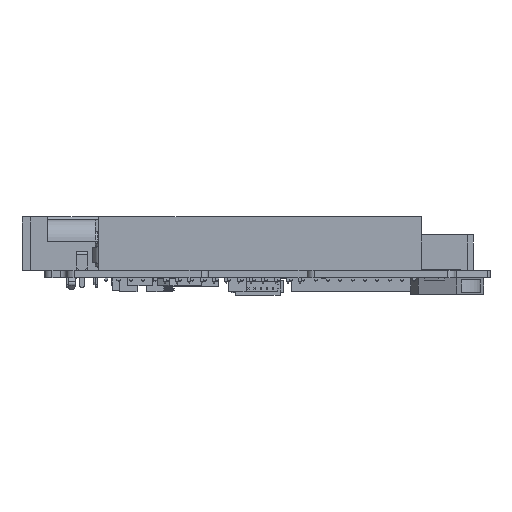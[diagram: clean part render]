
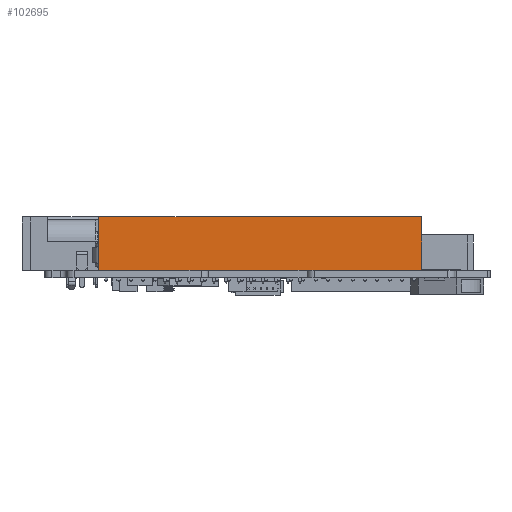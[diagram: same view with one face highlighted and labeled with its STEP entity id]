
A CAD part, front view. The second image highlights one B-rep face of the part: STEP entity #102695.
In plain terms, the highlighted planar face has unit normal (0, -1, 0).
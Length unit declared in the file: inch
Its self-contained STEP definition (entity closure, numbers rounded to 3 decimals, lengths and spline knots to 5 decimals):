
#9516 = LINE ( 'NONE', #199775, #86948 ) ;
#10596 = CARTESIAN_POINT ( 'NONE',  ( 1.285, -1.7375, 0.435 ) ) ;
#14395 = DIRECTION ( 'NONE',  ( 0., 0., -1. ) ) ;
#22047 = DIRECTION ( 'NONE',  ( 1., 0., 0. ) ) ;
#30537 = VERTEX_POINT ( 'NONE', #146962 ) ;
#37738 = EDGE_CURVE ( 'NONE', #30537, #114789, #9516, .T. ) ;
#42252 = CARTESIAN_POINT ( 'NONE',  ( -1.335, -1.7375, 0.435 ) ) ;
#52468 = CARTESIAN_POINT ( 'NONE',  ( 1.285, -1.7375, 0. ) ) ;
#57190 = PLANE ( 'NONE',  #193115 ) ;
#62843 = CARTESIAN_POINT ( 'NONE',  ( 1.285, -1.7375, 0. ) ) ;
#64575 = EDGE_CURVE ( 'NONE', #183279, #30537, #86502, .T. ) ;
#64854 = EDGE_CURVE ( 'NONE', #183279, #111804, #105718, .T. ) ;
#70705 = EDGE_LOOP ( 'NONE', ( #162779, #193974, #79548, #77676 ) ) ;
#72798 = DIRECTION ( 'NONE',  ( -1., 0., 0. ) ) ;
#77676 = ORIENTED_EDGE ( 'NONE', *, *, #64854, .T. ) ;
#78693 = LINE ( 'NONE', #52468, #197277 ) ;
#79548 = ORIENTED_EDGE ( 'NONE', *, *, #64575, .F. ) ;
#86502 = LINE ( 'NONE', #183790, #200241 ) ;
#86948 = VECTOR ( 'NONE', #14395, 39.37008 ) ;
#102695 = ADVANCED_FACE ( 'NONE', ( #113442 ), #57190, .F. ) ;
#105718 = LINE ( 'NONE', #142429, #188053 ) ;
#111804 = VERTEX_POINT ( 'NONE', #167106 ) ;
#113442 = FACE_OUTER_BOUND ( 'NONE', #70705, .T. ) ;
#114789 = VERTEX_POINT ( 'NONE', #62843 ) ;
#142429 = CARTESIAN_POINT ( 'NONE',  ( -1.335, -1.7375, 0.435 ) ) ;
#146962 = CARTESIAN_POINT ( 'NONE',  ( 1.285, -1.7375, 0.435 ) ) ;
#162779 = ORIENTED_EDGE ( 'NONE', *, *, #193883, .T. ) ;
#165529 = DIRECTION ( 'NONE',  ( 0., 1., 0. ) ) ;
#167106 = CARTESIAN_POINT ( 'NONE',  ( -1.335, -1.7375, 0. ) ) ;
#168154 = DIRECTION ( 'NONE',  ( 1., 0., 0. ) ) ;
#183279 = VERTEX_POINT ( 'NONE', #42252 ) ;
#183790 = CARTESIAN_POINT ( 'NONE',  ( 1.285, -1.7375, 0.435 ) ) ;
#188053 = VECTOR ( 'NONE', #188411, 39.37008 ) ;
#188411 = DIRECTION ( 'NONE',  ( 0., 0., -1. ) ) ;
#193115 = AXIS2_PLACEMENT_3D ( 'NONE', #10596, #165529, #72798 ) ;
#193883 = EDGE_CURVE ( 'NONE', #111804, #114789, #78693, .T. ) ;
#193974 = ORIENTED_EDGE ( 'NONE', *, *, #37738, .F. ) ;
#197277 = VECTOR ( 'NONE', #22047, 39.37008 ) ;
#199775 = CARTESIAN_POINT ( 'NONE',  ( 1.285, -1.7375, 0.435 ) ) ;
#200241 = VECTOR ( 'NONE', #168154, 39.37008 ) ;
